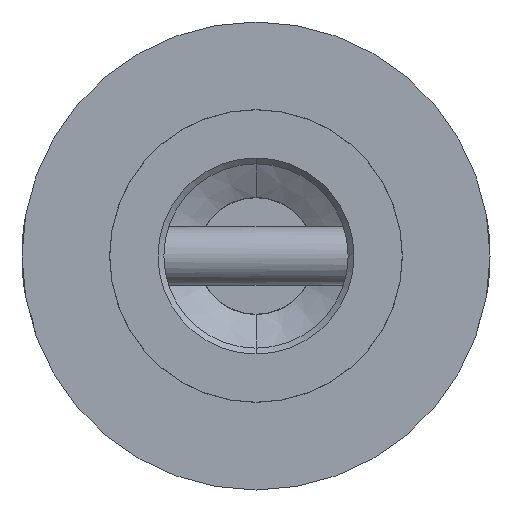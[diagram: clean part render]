
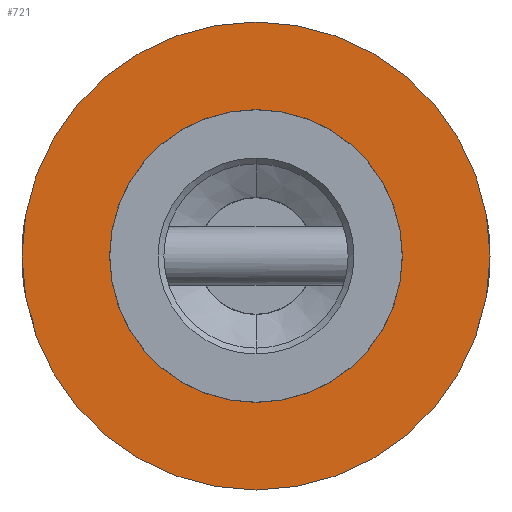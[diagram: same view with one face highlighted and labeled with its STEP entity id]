
A CAD part, front view. The second image highlights one B-rep face of the part: STEP entity #721.
In plain terms, the highlighted planar face has unit normal (0, -1, 0).
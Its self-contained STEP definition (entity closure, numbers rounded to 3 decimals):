
#8 = EDGE_CURVE ( 'NONE', #2335, #2226, #2127, .T. ) ;
#143 = FACE_BOUND ( 'NONE', #674, .T. ) ;
#262 = DIRECTION ( 'NONE',  ( 0., 0., -1. ) ) ;
#376 = DIRECTION ( 'NONE',  ( 0., -1., 0. ) ) ;
#406 = AXIS2_PLACEMENT_3D ( 'NONE', #2802, #1738, #1208 ) ;
#464 = CIRCLE ( 'NONE', #406, 8. ) ;
#476 = EDGE_CURVE ( 'NONE', #1414, #534, #1465, .T. ) ;
#494 = CARTESIAN_POINT ( 'NONE',  ( 0., -300., -8. ) ) ;
#534 = VERTEX_POINT ( 'NONE', #494 ) ;
#535 = EDGE_CURVE ( 'NONE', #2226, #2335, #2171, .T. ) ;
#674 = EDGE_LOOP ( 'NONE', ( #2049, #2808 ) ) ;
#681 = AXIS2_PLACEMENT_3D ( 'NONE', #2649, #2589, #2582 ) ;
#721 = ADVANCED_FACE ( 'NONE', ( #143, #2220 ), #2969, .T. ) ;
#1027 = ORIENTED_EDGE ( 'NONE', *, *, #1372, .T. ) ;
#1208 = DIRECTION ( 'NONE',  ( 0., 0., -1. ) ) ;
#1372 = EDGE_CURVE ( 'NONE', #534, #1414, #464, .T. ) ;
#1383 = CARTESIAN_POINT ( 'NONE',  ( 0., -300., 5.005 ) ) ;
#1414 = VERTEX_POINT ( 'NONE', #1909 ) ;
#1465 = CIRCLE ( 'NONE', #2213, 8. ) ;
#1552 = CARTESIAN_POINT ( 'NONE',  ( 0., -300., 0. ) ) ;
#1589 = DIRECTION ( 'NONE',  ( 0., 0., -1. ) ) ;
#1738 = DIRECTION ( 'NONE',  ( 0., -1., 0. ) ) ;
#1787 = DIRECTION ( 'NONE',  ( 0., -1., 0. ) ) ;
#1895 = CARTESIAN_POINT ( 'NONE',  ( 0., -300., 0. ) ) ;
#1909 = CARTESIAN_POINT ( 'NONE',  ( 0., -300., 8. ) ) ;
#1939 = DIRECTION ( 'NONE',  ( 0., -1., 0. ) ) ;
#2049 = ORIENTED_EDGE ( 'NONE', *, *, #8, .F. ) ;
#2127 = CIRCLE ( 'NONE', #2952, 5.005 ) ;
#2171 = CIRCLE ( 'NONE', #2561, 5.005 ) ;
#2173 = DIRECTION ( 'NONE',  ( 0., 0., -1. ) ) ;
#2213 = AXIS2_PLACEMENT_3D ( 'NONE', #1895, #1939, #2173 ) ;
#2214 = CARTESIAN_POINT ( 'NONE',  ( 0., -300., -5.005 ) ) ;
#2220 = FACE_OUTER_BOUND ( 'NONE', #3102, .T. ) ;
#2226 = VERTEX_POINT ( 'NONE', #1383 ) ;
#2335 = VERTEX_POINT ( 'NONE', #2214 ) ;
#2532 = ORIENTED_EDGE ( 'NONE', *, *, #476, .T. ) ;
#2553 = CARTESIAN_POINT ( 'NONE',  ( 0., -300., 0. ) ) ;
#2561 = AXIS2_PLACEMENT_3D ( 'NONE', #2553, #1787, #262 ) ;
#2582 = DIRECTION ( 'NONE',  ( 0., 0., -1. ) ) ;
#2589 = DIRECTION ( 'NONE',  ( 0., -1., 0. ) ) ;
#2649 = CARTESIAN_POINT ( 'NONE',  ( 0., -300., 0. ) ) ;
#2802 = CARTESIAN_POINT ( 'NONE',  ( 0., -300., 0. ) ) ;
#2808 = ORIENTED_EDGE ( 'NONE', *, *, #535, .F. ) ;
#2952 = AXIS2_PLACEMENT_3D ( 'NONE', #1552, #376, #1589 ) ;
#2969 = PLANE ( 'NONE',  #681 ) ;
#3102 = EDGE_LOOP ( 'NONE', ( #1027, #2532 ) ) ;
